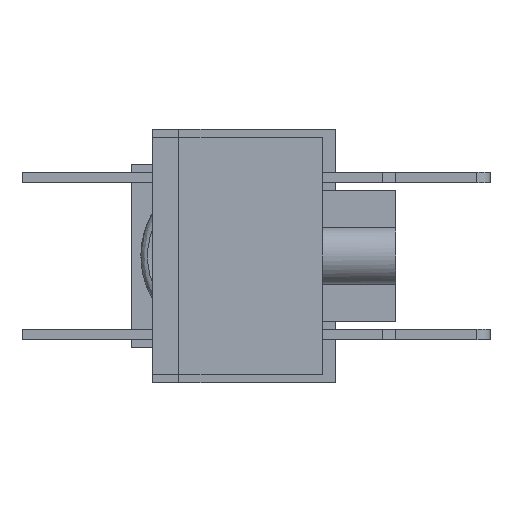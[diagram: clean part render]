
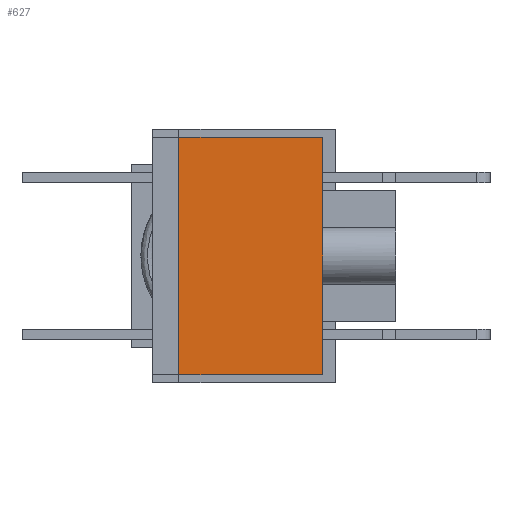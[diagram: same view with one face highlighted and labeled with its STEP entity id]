
A CAD part, left-side view. The second image highlights one B-rep face of the part: STEP entity #627.
In plain terms, the highlighted planar face has unit normal (-1, 0, 0).
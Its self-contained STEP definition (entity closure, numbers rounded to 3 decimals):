
#627=ADVANCED_FACE('',(#1599),#15726,.T.);
#1599=FACE_OUTER_BOUND('',#2591,.T.);
#2591=EDGE_LOOP('',(#3829,#3830,#3831,#3832,#3833));
#3829=ORIENTED_EDGE('',*,*,#8576,.T.);
#3830=ORIENTED_EDGE('',*,*,#8575,.T.);
#3831=ORIENTED_EDGE('',*,*,#8569,.F.);
#3832=ORIENTED_EDGE('',*,*,#8608,.F.);
#3833=ORIENTED_EDGE('',*,*,#8612,.F.);
#8569=EDGE_CURVE('',#13517,#13518,#11041,.T.);
#8575=EDGE_CURVE('',#13523,#13518,#11047,.T.);
#8576=EDGE_CURVE('',#13524,#13523,#11048,.T.);
#8608=EDGE_CURVE('',#13550,#13517,#11080,.T.);
#8612=EDGE_CURVE('',#13524,#13550,#11084,.T.);
#11041=B_SPLINE_CURVE_WITH_KNOTS('',1,(#20857,#20858),.UNSPECIFIED.,.F.,
 .F.,(2,2),(0.,5.5),.UNSPECIFIED.);
#11047=B_SPLINE_CURVE_WITH_KNOTS('',1,(#20869,#20870),.UNSPECIFIED.,.F.,
 .F.,(2,2),(-4.55,0.),.UNSPECIFIED.);
#11048=B_SPLINE_CURVE_WITH_KNOTS('',1,(#20871,#20872),.UNSPECIFIED.,.F.,
 .F.,(2,2),(-4.55,0.),.UNSPECIFIED.);
#11080=B_SPLINE_CURVE_WITH_KNOTS('',1,(#20935,#20936),.UNSPECIFIED.,.F.,
 .F.,(2,2),(0.,9.1),.UNSPECIFIED.);
#11084=B_SPLINE_CURVE_WITH_KNOTS('',1,(#20943,#20944),.UNSPECIFIED.,.F.,
 .F.,(2,2),(-5.5,0.),.UNSPECIFIED.);
#13517=VERTEX_POINT('',#20140);
#13518=VERTEX_POINT('',#20141);
#13523=VERTEX_POINT('',#20146);
#13524=VERTEX_POINT('',#20147);
#13550=VERTEX_POINT('',#20173);
#15726=PLANE('',#16158);
#16158=AXIS2_PLACEMENT_3D('',#16922,#16531,$);
#16531=DIRECTION('',(-1.,0.,0.));
#16922=CARTESIAN_POINT('',(-25.,-7.05,5.46));
#20140=CARTESIAN_POINT('',(-25.,-1.,4.55));
#20141=CARTESIAN_POINT('',(-25.,-6.5,4.55));
#20146=CARTESIAN_POINT('',(-25.,-6.5,0.));
#20147=CARTESIAN_POINT('',(-25.,-6.5,-4.55));
#20173=CARTESIAN_POINT('',(-25.,-1.,-4.55));
#20857=CARTESIAN_POINT('',(-25.,-1.,4.55));
#20858=CARTESIAN_POINT('',(-25.,-6.5,4.55));
#20869=CARTESIAN_POINT('',(-25.,-6.5,0.));
#20870=CARTESIAN_POINT('',(-25.,-6.5,4.55));
#20871=CARTESIAN_POINT('',(-25.,-6.5,-4.55));
#20872=CARTESIAN_POINT('',(-25.,-6.5,0.));
#20935=CARTESIAN_POINT('',(-25.,-1.,-4.55));
#20936=CARTESIAN_POINT('',(-25.,-1.,4.55));
#20943=CARTESIAN_POINT('',(-25.,-6.5,-4.55));
#20944=CARTESIAN_POINT('',(-25.,-1.,-4.55));
